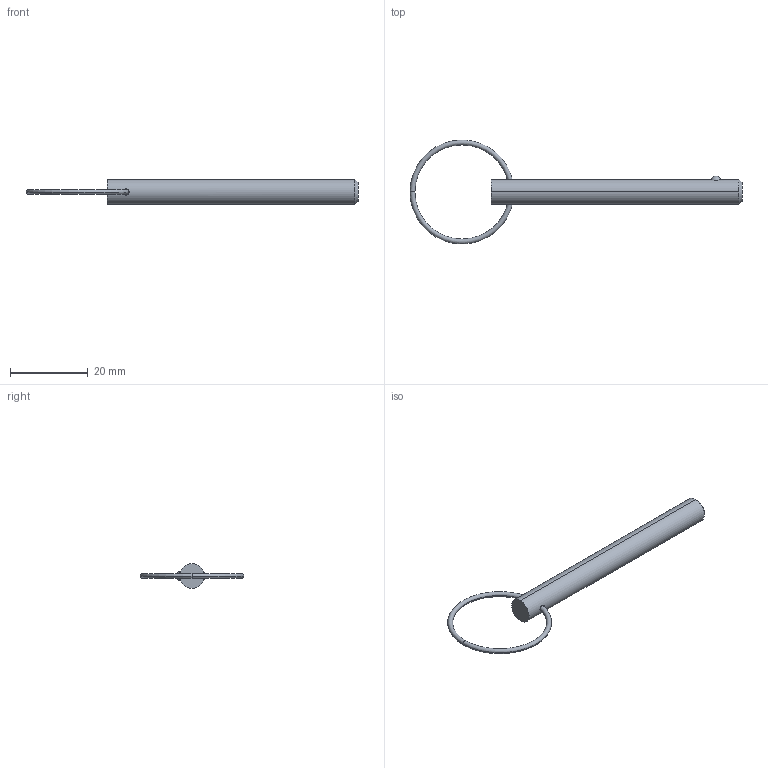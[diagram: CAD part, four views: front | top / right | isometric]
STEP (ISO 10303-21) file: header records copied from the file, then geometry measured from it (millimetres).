
FILE_DESCRIPTION (( 'STEP AP203' ), '1' );
FILE_NAME ('33012.W2520.step', '2024-11-01T14:07:10', ( '' ), ( '' ), 'SwSTEP 2.0', 'SolidWorks 2019', '' );
FILE_SCHEMA (( 'CONFIG_CONTROL_DESIGN' ));
Length unit declared in the file: millimetre
Products named in the file (3): Part1_33012.W2520; Part2_33012.W2520; 33012.W2520
Assembly tree (2 placements, depth 2):
  33012.W2520
    Part1_33012.W2520
    Part2_33012.W2520
Bounding box: 85.17 x 26.67 x 6.35 mm (x, y, z)
Volume: 2122 mm3; surface area: 1685.2 mm2
Topology: 2 solids, 2 shells, 16 faces, 31 edges, 18 vertices
Faces by surface type: torus 8, sphere 2, cone 2, cylinder 2, plane 2
Entity records: 811 total; most frequent: CARTESIAN_POINT 168, DIRECTION 88, ORIENTED_EDGE 62, AXIS2_PLACEMENT_3D 42, EDGE_CURVE 31, PERSON_AND_ORGANIZATION 26, CIRCLE 21, CALENDAR_DATE 19
